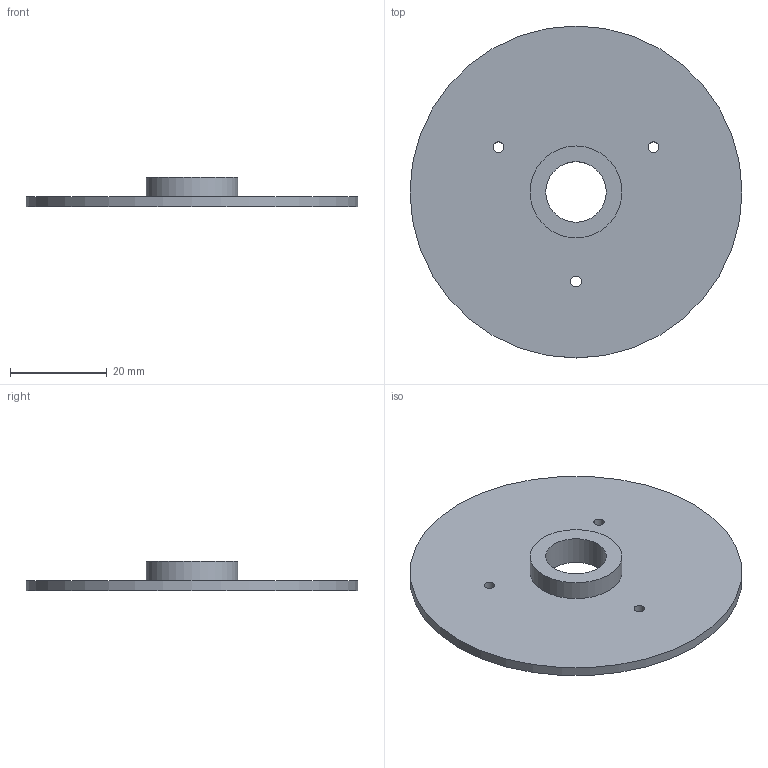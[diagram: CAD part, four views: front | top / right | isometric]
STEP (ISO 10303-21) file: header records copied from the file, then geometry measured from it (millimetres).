
FILE_DESCRIPTION(('Open CASCADE Model'),'2;1');
FILE_NAME('CH_backplate','2026-11-05T16:12:29',('Author'),( 'Open CASCADE'),'Open CASCADE STEP processor 7.9','build123d', 'Unknown');
FILE_SCHEMA(('AUTOMOTIVE_DESIGN { 1 0 10303 214 1 1 1 1 }'));
Length unit declared in the file: millimetre
Products named in the file (2): CH_backplate
Assembly tree (1 placements, depth 2):
  CH_backplate
    CH_backplate
Bounding box: 68.6 x 68.6 x 6 mm (x, y, z)
Volume: 7767.1 mm3; surface area: 8070.7 mm2
Topology: 1 solids, 1 shells, 9 faces, 18 edges, 12 vertices
Faces by surface type: cylinder 6, plane 3
Full cylindrical faces by diameter (mm): 2.2 x3, 12.5 x1, 19 x1, 68.6 x1
Entity records: 546 total; most frequent: DIRECTION 88, CARTESIAN_POINT 77, ORIENTED_EDGE 36, PCURVE 36, DEFINITIONAL_REPRESENTATION 36, LINE 30, VECTOR 30, CIRCLE 24
